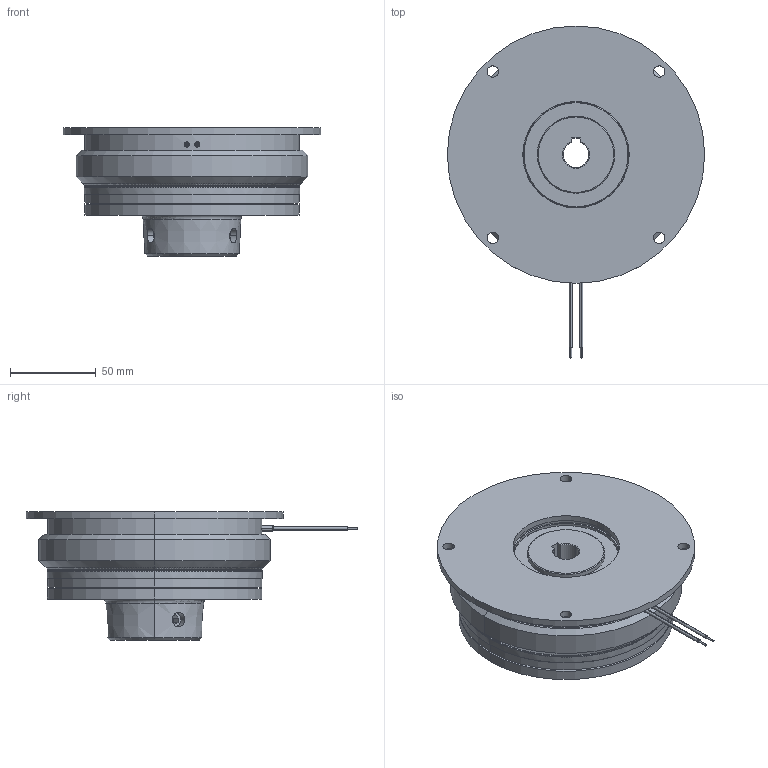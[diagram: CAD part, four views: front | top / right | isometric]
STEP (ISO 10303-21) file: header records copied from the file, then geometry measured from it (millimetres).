
FILE_DESCRIPTION (( 'STEP AP214' ), '1' );
FILE_NAME ('dr_bk_0907-130_mu.STEP', '2021-11-19T09:24:01', ( '' ), ( '' ), 'SwSTEP 2.0', 'SolidWorks 2019', '' );
FILE_SCHEMA (( 'AUTOMOTIVE_DESIGN' ));
Length unit declared in the file: millimetre
Products named in the file (12): 10069233_000_Kundenmodell; 10068857_000; dr_bk_0907-130_mu; 10069228_000_Kundenmodell; 10069231_000_M 6 x 12; 10068854_000; 10069179_000; 10069229_000_3,85 mm Einbaul„nge; 10069230_000_M 6; 10069224_000_Kundenmodell; 10069167_000_M 10 x 16; 10068853_000_Montagezustand
Assembly tree (20 placements, depth 3):
  dr_bk_0907-130_mu
    10069179_000
    10069233_000_Kundenmodell
    10069224_000_Kundenmodell
      10068857_000
      10069228_000_Kundenmodell
      10068854_000
      10068853_000_Montagezustand  x3
      10069229_000_3,85 mm Einbaul„nge  x3
      10069231_000_M 6 x 12  x3
      10069230_000_M 6  x3
      10069167_000_M 10 x 16  x2
Bounding box: 150 x 193.5 x 74.85 mm (x, y, z)
Volume: 643285.3 mm3; surface area: 172514.6 mm2
Topology: 21 solids, 21 shells, 3097 faces, 8901 edges, 5873 vertices
Faces by surface type: plane 2233, cone 534, cylinder 168, bspline 132, torus 24, sphere 6
Entity records: 109330 total; most frequent: CARTESIAN_POINT 38620, ORIENTED_EDGE 17162, DIRECTION 11061, EDGE_CURVE 8581, VERTEX_POINT 5686, AXIS2_PLACEMENT_3D 4040, B_SPLINE_CURVE_WITH_KNOTS 3600, EDGE_LOOP 3043
